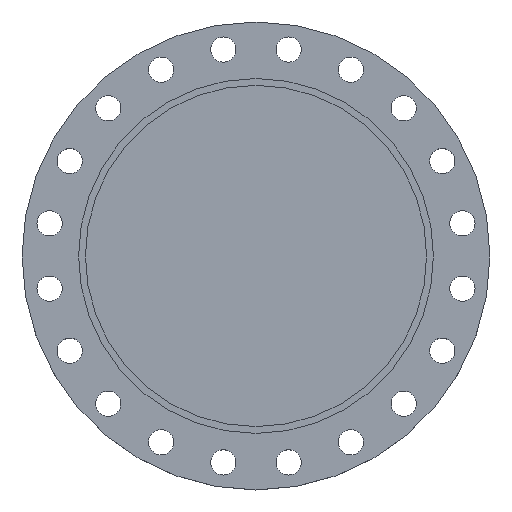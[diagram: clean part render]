
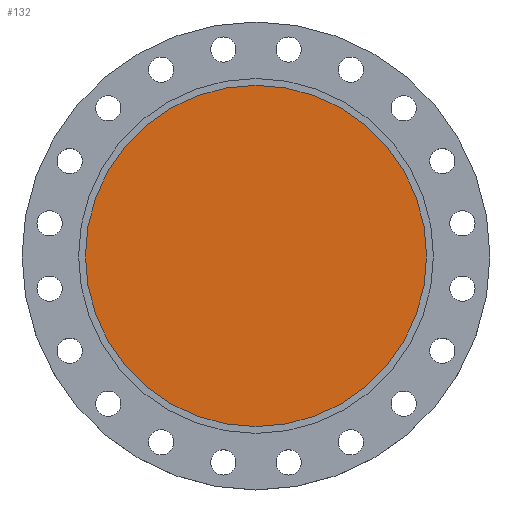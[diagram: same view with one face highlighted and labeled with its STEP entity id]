
A CAD part, top view. The second image highlights one B-rep face of the part: STEP entity #132.
In plain terms, the highlighted planar face has unit normal (0, 0, 1).
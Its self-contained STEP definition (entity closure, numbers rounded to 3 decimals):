
#129 = CARTESIAN_POINT ( 'NONE',  ( 324.5, 0., -5.5 ) ) ;
#132 = ADVANCED_FACE ( 'NONE', ( #929 ), #928, .T. ) ;
#138 = CARTESIAN_POINT ( 'NONE',  ( -324.5, 0., -5.5 ) ) ;
#232 = AXIS2_PLACEMENT_3D ( 'NONE', #927, #925, #924 ) ;
#235 = CIRCLE ( 'NONE', #662, 324.5 ) ;
#297 = EDGE_CURVE ( 'NONE', #1619, #1626, #630, .T. ) ;
#630 = CIRCLE ( 'NONE', #632, 324.5 ) ;
#632 = AXIS2_PLACEMENT_3D ( 'NONE', #832, #829, #828 ) ;
#662 = AXIS2_PLACEMENT_3D ( 'NONE', #1486, #1485, #1484 ) ;
#828 = DIRECTION ( 'NONE',  ( -1., 0., 0. ) ) ;
#829 = DIRECTION ( 'NONE',  ( 0., 0., -1. ) ) ;
#832 = CARTESIAN_POINT ( 'NONE',  ( 0., 0., -5.5 ) ) ;
#924 = DIRECTION ( 'NONE',  ( 1., 0., 0. ) ) ;
#925 = DIRECTION ( 'NONE',  ( 0., 0., 1. ) ) ;
#927 = CARTESIAN_POINT ( 'NONE',  ( 324.5, 0., -5.5 ) ) ;
#928 = PLANE ( 'NONE',  #232 ) ;
#929 = FACE_OUTER_BOUND ( 'NONE', #1659, .T. ) ;
#1246 = ORIENTED_EDGE ( 'NONE', *, *, #1755, .F. ) ;
#1258 = ORIENTED_EDGE ( 'NONE', *, *, #297, .F. ) ;
#1484 = DIRECTION ( 'NONE',  ( -1., 0., 0. ) ) ;
#1485 = DIRECTION ( 'NONE',  ( 0., 0., -1. ) ) ;
#1486 = CARTESIAN_POINT ( 'NONE',  ( 0., 0., -5.5 ) ) ;
#1619 = VERTEX_POINT ( 'NONE', #138 ) ;
#1626 = VERTEX_POINT ( 'NONE', #129 ) ;
#1659 = EDGE_LOOP ( 'NONE', ( #1258, #1246 ) ) ;
#1755 = EDGE_CURVE ( 'NONE', #1626, #1619, #235, .T. ) ;
